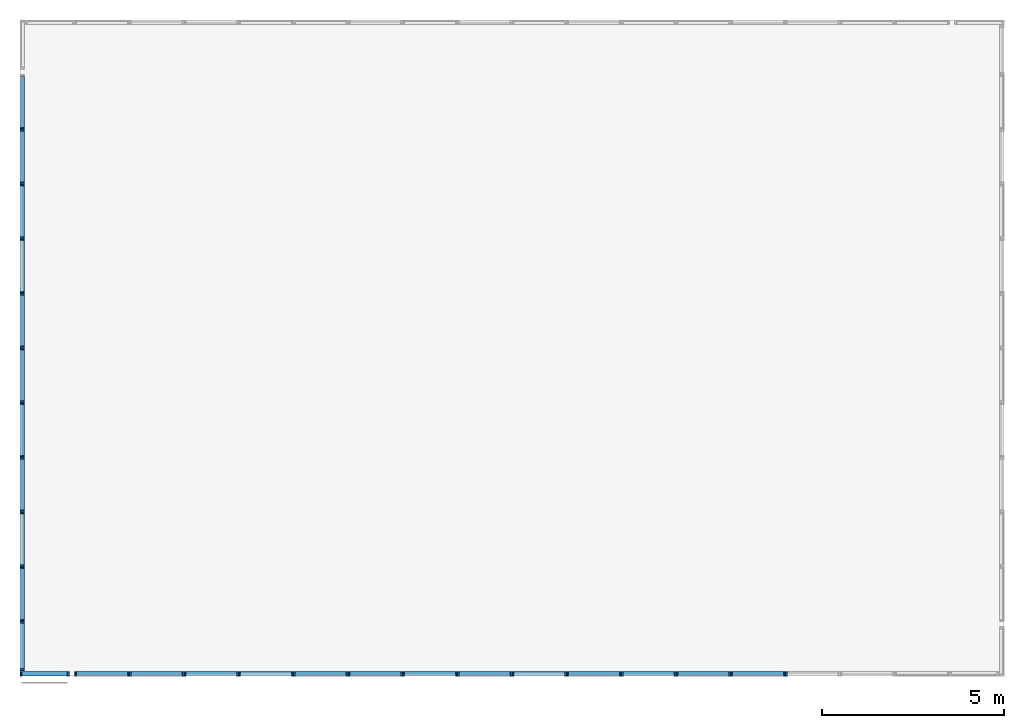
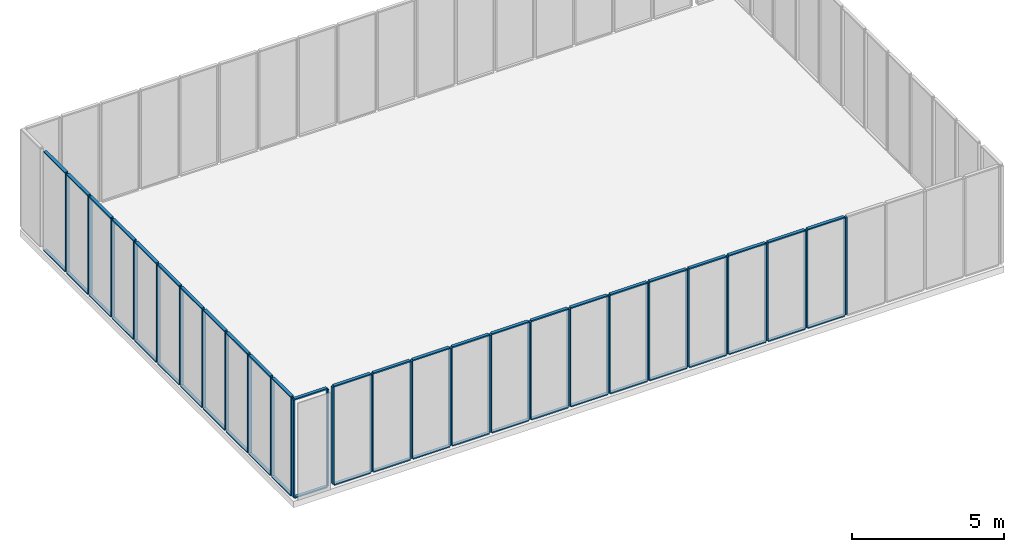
# One storey, part 1 of 4: 100 members.
"""IFC4 building model written with IfcOpenShell, lengths in metres."""

from ifc_helpers import new_model, si_unit, frame, origin_with_axes, place, context, subcontext, project, spatial, indexed_curve, outline, extrude, material, element, save


model = new_model("IFC4")

# Units and contexts
model_context = context("Model", 3, precision=1e-05, world=origin_with_axes())
body_context = subcontext(model_context, "Body", "Model", "MODEL_VIEW")
ifc_project = project(units=[si_unit("AREAUNIT", "SQUARE_METRE"), si_unit("VOLUMEUNIT", "CUBIC_METRE"), si_unit("LENGTHUNIT", "METRE")], contexts=[model_context])

# Site, building, storey
site = spatial("IfcSite", under=ifc_project, Name="Synthetic Site")
building = spatial("IfcBuilding", under=site, Name="Complex Tower")
storey_placement = place(None, origin_with_axes())
storey = spatial("IfcBuildingStorey", under=building, at=storey_placement, Name="L01", Elevation=0.0)

# Members
ifc_material = material(Name="Aluminium")
for number, where, z_axis, x_axis, name in (
    (1, (0.0, 0.0, 0.15), (0.0, 0.0, 1.0), (1.0, 0.0, 0.0), "CT-L01-S-001-ML"),
    (2, (1.3, 0.0, 0.15), (0.0, 0.0, 1.0), (1.0, 0.0, 0.0), "CT-L01-S-001-MR"),
):
    element("IfcMember", number, at=place(storey_placement, frame(where, z_axis=z_axis, x_axis=x_axis)), inside=storey, material=ifc_material, Name=name, PredefinedType="MULLION", context=body_context, shape_type="SweptSolid", body=[
        extrude(outline(indexed_curve([(0.0, 0.0), (0.0, 0.12), (0.05, 0.12), (0.05, 0.0), (0.0, 0.0)], self_intersect=False)), origin_with_axes(), (0.0, 0.0, 1.0), 3.9000000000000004),
    ])
for number, where, z_axis, x_axis, name in (
    (3, (0.05, 0.0, 0.09999999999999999), (0.0, 0.0, 1.0), (1.0, 0.0, 0.0), "CT-L01-S-001-FB"),
    (4, (0.05, 0.0, 4.050000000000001), (0.0, 0.0, 1.0), (1.0, 0.0, 0.0), "CT-L01-S-001-FT"),
):
    element("IfcMember", number, at=place(storey_placement, frame(where, z_axis=z_axis, x_axis=x_axis)), inside=storey, material=ifc_material, Name=name, PredefinedType="MULLION", context=body_context, shape_type="SweptSolid", body=[
        extrude(outline(indexed_curve([(0.0, 0.0), (0.0, 0.12), (1.25, 0.12), (1.25, 0.0), (0.0, 0.0)], self_intersect=False)), origin_with_axes(), (0.0, 0.0, 1.0), 0.05),
    ])
for number, where, z_axis, x_axis, name in (
    (5, (1.5, 0.0, 0.15), (0.0, 0.0, 1.0), (1.0, 0.0, 0.0), "CT-L01-S-002-ML"),
    (6, (2.95, 0.0, 0.15), (0.0, 0.0, 1.0), (1.0, 0.0, 0.0), "CT-L01-S-002-MR"),
):
    element("IfcMember", number, at=place(storey_placement, frame(where, z_axis=z_axis, x_axis=x_axis)), inside=storey, material=ifc_material, Name=name, PredefinedType="MULLION", context=body_context, shape_type="SweptSolid", body=[
        extrude(outline(indexed_curve([(0.0, 0.0), (0.0, 0.12), (0.05, 0.12), (0.05, 0.0), (0.0, 0.0)], self_intersect=False)), origin_with_axes(), (0.0, 0.0, 1.0), 3.9000000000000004),
    ])
for number, where, z_axis, x_axis, name in (
    (7, (1.55, 0.0, 0.09999999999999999), (0.0, 0.0, 1.0), (1.0, 0.0, 0.0), "CT-L01-S-002-FB"),
    (8, (1.55, 0.0, 4.050000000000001), (0.0, 0.0, 1.0), (1.0, 0.0, 0.0), "CT-L01-S-002-FT"),
):
    element("IfcMember", number, at=place(storey_placement, frame(where, z_axis=z_axis, x_axis=x_axis)), inside=storey, material=ifc_material, Name=name, PredefinedType="MULLION", context=body_context, shape_type="SweptSolid", body=[
        extrude(outline(indexed_curve([(0.0, 0.0), (0.0, 0.12), (1.4, 0.12), (1.4, 0.0), (0.0, 0.0)], self_intersect=False)), origin_with_axes(), (0.0, 0.0, 1.0), 0.05),
    ])
for number, where, z_axis, x_axis, name in (
    (9, (3.0, 0.0, 0.15), (0.0, 0.0, 1.0), (1.0, 0.0, 0.0), "CT-L01-S-003-ML"),
    (10, (4.449999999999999, 0.0, 0.15), (0.0, 0.0, 1.0), (1.0, 0.0, 0.0), "CT-L01-S-003-MR"),
):
    element("IfcMember", number, at=place(storey_placement, frame(where, z_axis=z_axis, x_axis=x_axis)), inside=storey, material=ifc_material, Name=name, PredefinedType="MULLION", context=body_context, shape_type="SweptSolid", body=[
        extrude(outline(indexed_curve([(0.0, 0.0), (0.0, 0.12), (0.05, 0.12), (0.05, 0.0), (0.0, 0.0)], self_intersect=False)), origin_with_axes(), (0.0, 0.0, 1.0), 3.9000000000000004),
    ])
for number, where, z_axis, x_axis, name in (
    (11, (3.05, 0.0, 0.09999999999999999), (0.0, 0.0, 1.0), (1.0, 0.0, 0.0), "CT-L01-S-003-FB"),
    (12, (3.05, 0.0, 4.050000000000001), (0.0, 0.0, 1.0), (1.0, 0.0, 0.0), "CT-L01-S-003-FT"),
):
    element("IfcMember", number, at=place(storey_placement, frame(where, z_axis=z_axis, x_axis=x_axis)), inside=storey, material=ifc_material, Name=name, PredefinedType="MULLION", context=body_context, shape_type="SweptSolid", body=[
        extrude(outline(indexed_curve([(0.0, 0.0), (0.0, 0.12), (1.4, 0.12), (1.4, 0.0), (0.0, 0.0)], self_intersect=False)), origin_with_axes(), (0.0, 0.0, 1.0), 0.05),
    ])
for number, where, z_axis, x_axis, name in (
    (13, (4.5, 0.0, 0.15), (0.0, 0.0, 1.0), (1.0, 0.0, 0.0), "CT-L01-S-004-ML"),
    (14, (5.949999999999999, 0.0, 0.15), (0.0, 0.0, 1.0), (1.0, 0.0, 0.0), "CT-L01-S-004-MR"),
):
    element("IfcMember", number, at=place(storey_placement, frame(where, z_axis=z_axis, x_axis=x_axis)), inside=storey, material=ifc_material, Name=name, PredefinedType="MULLION", context=body_context, shape_type="SweptSolid", body=[
        extrude(outline(indexed_curve([(0.0, 0.0), (0.0, 0.12), (0.05, 0.12), (0.05, 0.0), (0.0, 0.0)], self_intersect=False)), origin_with_axes(), (0.0, 0.0, 1.0), 3.9000000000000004),
    ])
for number, where, z_axis, x_axis, name in (
    (15, (4.55, 0.0, 0.09999999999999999), (0.0, 0.0, 1.0), (1.0, 0.0, 0.0), "CT-L01-S-004-FB"),
    (16, (4.55, 0.0, 4.050000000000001), (0.0, 0.0, 1.0), (1.0, 0.0, 0.0), "CT-L01-S-004-FT"),
):
    element("IfcMember", number, at=place(storey_placement, frame(where, z_axis=z_axis, x_axis=x_axis)), inside=storey, material=ifc_material, Name=name, PredefinedType="MULLION", context=body_context, shape_type="SweptSolid", body=[
        extrude(outline(indexed_curve([(0.0, 0.0), (0.0, 0.12), (1.4, 0.12), (1.4, 0.0), (0.0, 0.0)], self_intersect=False)), origin_with_axes(), (0.0, 0.0, 1.0), 0.05),
    ])
for number, where, z_axis, x_axis, name in (
    (17, (6.0, 0.0, 0.15), (0.0, 0.0, 1.0), (1.0, 0.0, 0.0), "CT-L01-S-005-ML"),
    (18, (7.449999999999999, 0.0, 0.15), (0.0, 0.0, 1.0), (1.0, 0.0, 0.0), "CT-L01-S-005-MR"),
):
    element("IfcMember", number, at=place(storey_placement, frame(where, z_axis=z_axis, x_axis=x_axis)), inside=storey, material=ifc_material, Name=name, PredefinedType="MULLION", context=body_context, shape_type="SweptSolid", body=[
        extrude(outline(indexed_curve([(0.0, 0.0), (0.0, 0.12), (0.05, 0.12), (0.05, 0.0), (0.0, 0.0)], self_intersect=False)), origin_with_axes(), (0.0, 0.0, 1.0), 3.9000000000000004),
    ])
for number, where, z_axis, x_axis, name in (
    (19, (6.05, 0.0, 0.09999999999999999), (0.0, 0.0, 1.0), (1.0, 0.0, 0.0), "CT-L01-S-005-FB"),
    (20, (6.05, 0.0, 4.050000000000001), (0.0, 0.0, 1.0), (1.0, 0.0, 0.0), "CT-L01-S-005-FT"),
):
    element("IfcMember", number, at=place(storey_placement, frame(where, z_axis=z_axis, x_axis=x_axis)), inside=storey, material=ifc_material, Name=name, PredefinedType="MULLION", context=body_context, shape_type="SweptSolid", body=[
        extrude(outline(indexed_curve([(0.0, 0.0), (0.0, 0.12), (1.4, 0.12), (1.4, 0.0), (0.0, 0.0)], self_intersect=False)), origin_with_axes(), (0.0, 0.0, 1.0), 0.05),
    ])
for number, where, z_axis, x_axis, name in (
    (21, (7.5, 0.0, 0.15), (0.0, 0.0, 1.0), (1.0, 0.0, 0.0), "CT-L01-S-006-ML"),
    (22, (8.95, 0.0, 0.15), (0.0, 0.0, 1.0), (1.0, 0.0, 0.0), "CT-L01-S-006-MR"),
):
    element("IfcMember", number, at=place(storey_placement, frame(where, z_axis=z_axis, x_axis=x_axis)), inside=storey, material=ifc_material, Name=name, PredefinedType="MULLION", context=body_context, shape_type="SweptSolid", body=[
        extrude(outline(indexed_curve([(0.0, 0.0), (0.0, 0.12), (0.05, 0.12), (0.05, 0.0), (0.0, 0.0)], self_intersect=False)), origin_with_axes(), (0.0, 0.0, 1.0), 3.9000000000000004),
    ])
for number, where, z_axis, x_axis, name in (
    (23, (7.55, 0.0, 0.09999999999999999), (0.0, 0.0, 1.0), (1.0, 0.0, 0.0), "CT-L01-S-006-FB"),
    (24, (7.55, 0.0, 4.050000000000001), (0.0, 0.0, 1.0), (1.0, 0.0, 0.0), "CT-L01-S-006-FT"),
):
    element("IfcMember", number, at=place(storey_placement, frame(where, z_axis=z_axis, x_axis=x_axis)), inside=storey, material=ifc_material, Name=name, PredefinedType="MULLION", context=body_context, shape_type="SweptSolid", body=[
        extrude(outline(indexed_curve([(0.0, 0.0), (0.0, 0.12), (1.4, 0.12), (1.4, 0.0), (0.0, 0.0)], self_intersect=False)), origin_with_axes(), (0.0, 0.0, 1.0), 0.05),
    ])
for number, where, z_axis, x_axis, name in (
    (25, (9.0, 0.0, 0.15), (0.0, 0.0, 1.0), (1.0, 0.0, 0.0), "CT-L01-S-007-ML"),
    (26, (10.450000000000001, 0.0, 0.15), (0.0, 0.0, 1.0), (1.0, 0.0, 0.0), "CT-L01-S-007-MR"),
):
    element("IfcMember", number, at=place(storey_placement, frame(where, z_axis=z_axis, x_axis=x_axis)), inside=storey, material=ifc_material, Name=name, PredefinedType="MULLION", context=body_context, shape_type="SweptSolid", body=[
        extrude(outline(indexed_curve([(0.0, 0.0), (0.0, 0.12), (0.05, 0.12), (0.05, 0.0), (0.0, 0.0)], self_intersect=False)), origin_with_axes(), (0.0, 0.0, 1.0), 3.9000000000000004),
    ])
for number, where, z_axis, x_axis, name in (
    (27, (9.05, 0.0, 0.09999999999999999), (0.0, 0.0, 1.0), (1.0, 0.0, 0.0), "CT-L01-S-007-FB"),
    (28, (9.05, 0.0, 4.050000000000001), (0.0, 0.0, 1.0), (1.0, 0.0, 0.0), "CT-L01-S-007-FT"),
):
    element("IfcMember", number, at=place(storey_placement, frame(where, z_axis=z_axis, x_axis=x_axis)), inside=storey, material=ifc_material, Name=name, PredefinedType="MULLION", context=body_context, shape_type="SweptSolid", body=[
        extrude(outline(indexed_curve([(0.0, 0.0), (0.0, 0.12), (1.4, 0.12), (1.4, 0.0), (0.0, 0.0)], self_intersect=False)), origin_with_axes(), (0.0, 0.0, 1.0), 0.05),
    ])
for number, where, z_axis, x_axis, name in (
    (29, (10.5, 0.0, 0.15), (0.0, 0.0, 1.0), (1.0, 0.0, 0.0), "CT-L01-S-008-ML"),
    (30, (11.950000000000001, 0.0, 0.15), (0.0, 0.0, 1.0), (1.0, 0.0, 0.0), "CT-L01-S-008-MR"),
):
    element("IfcMember", number, at=place(storey_placement, frame(where, z_axis=z_axis, x_axis=x_axis)), inside=storey, material=ifc_material, Name=name, PredefinedType="MULLION", context=body_context, shape_type="SweptSolid", body=[
        extrude(outline(indexed_curve([(0.0, 0.0), (0.0, 0.12), (0.05, 0.12), (0.05, 0.0), (0.0, 0.0)], self_intersect=False)), origin_with_axes(), (0.0, 0.0, 1.0), 3.9000000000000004),
    ])
for number, where, z_axis, x_axis, name in (
    (31, (10.55, 0.0, 0.09999999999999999), (0.0, 0.0, 1.0), (1.0, 0.0, 0.0), "CT-L01-S-008-FB"),
    (32, (10.55, 0.0, 4.050000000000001), (0.0, 0.0, 1.0), (1.0, 0.0, 0.0), "CT-L01-S-008-FT"),
):
    element("IfcMember", number, at=place(storey_placement, frame(where, z_axis=z_axis, x_axis=x_axis)), inside=storey, material=ifc_material, Name=name, PredefinedType="MULLION", context=body_context, shape_type="SweptSolid", body=[
        extrude(outline(indexed_curve([(0.0, 0.0), (0.0, 0.12), (1.4, 0.12), (1.4, 0.0), (0.0, 0.0)], self_intersect=False)), origin_with_axes(), (0.0, 0.0, 1.0), 0.05),
    ])
for number, where, z_axis, x_axis, name in (
    (33, (12.0, 0.0, 0.15), (0.0, 0.0, 1.0), (1.0, 0.0, 0.0), "CT-L01-S-009-ML"),
    (34, (13.450000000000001, 0.0, 0.15), (0.0, 0.0, 1.0), (1.0, 0.0, 0.0), "CT-L01-S-009-MR"),
):
    element("IfcMember", number, at=place(storey_placement, frame(where, z_axis=z_axis, x_axis=x_axis)), inside=storey, material=ifc_material, Name=name, PredefinedType="MULLION", context=body_context, shape_type="SweptSolid", body=[
        extrude(outline(indexed_curve([(0.0, 0.0), (0.0, 0.12), (0.05, 0.12), (0.05, 0.0), (0.0, 0.0)], self_intersect=False)), origin_with_axes(), (0.0, 0.0, 1.0), 3.9000000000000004),
    ])
for number, where, z_axis, x_axis, name in (
    (35, (12.05, 0.0, 0.09999999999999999), (0.0, 0.0, 1.0), (1.0, 0.0, 0.0), "CT-L01-S-009-FB"),
    (36, (12.05, 0.0, 4.050000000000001), (0.0, 0.0, 1.0), (1.0, 0.0, 0.0), "CT-L01-S-009-FT"),
):
    element("IfcMember", number, at=place(storey_placement, frame(where, z_axis=z_axis, x_axis=x_axis)), inside=storey, material=ifc_material, Name=name, PredefinedType="MULLION", context=body_context, shape_type="SweptSolid", body=[
        extrude(outline(indexed_curve([(0.0, 0.0), (0.0, 0.12), (1.4, 0.12), (1.4, 0.0), (0.0, 0.0)], self_intersect=False)), origin_with_axes(), (0.0, 0.0, 1.0), 0.05),
    ])
for number, where, z_axis, x_axis, name in (
    (37, (13.5, 0.0, 0.15), (0.0, 0.0, 1.0), (1.0, 0.0, 0.0), "CT-L01-S-010-ML"),
    (38, (14.950000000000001, 0.0, 0.15), (0.0, 0.0, 1.0), (1.0, 0.0, 0.0), "CT-L01-S-010-MR"),
):
    element("IfcMember", number, at=place(storey_placement, frame(where, z_axis=z_axis, x_axis=x_axis)), inside=storey, material=ifc_material, Name=name, PredefinedType="MULLION", context=body_context, shape_type="SweptSolid", body=[
        extrude(outline(indexed_curve([(0.0, 0.0), (0.0, 0.12), (0.05, 0.12), (0.05, 0.0), (0.0, 0.0)], self_intersect=False)), origin_with_axes(), (0.0, 0.0, 1.0), 3.9000000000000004),
    ])
for number, where, z_axis, x_axis, name in (
    (39, (13.55, 0.0, 0.09999999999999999), (0.0, 0.0, 1.0), (1.0, 0.0, 0.0), "CT-L01-S-010-FB"),
    (40, (13.55, 0.0, 4.050000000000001), (0.0, 0.0, 1.0), (1.0, 0.0, 0.0), "CT-L01-S-010-FT"),
):
    element("IfcMember", number, at=place(storey_placement, frame(where, z_axis=z_axis, x_axis=x_axis)), inside=storey, material=ifc_material, Name=name, PredefinedType="MULLION", context=body_context, shape_type="SweptSolid", body=[
        extrude(outline(indexed_curve([(0.0, 0.0), (0.0, 0.12), (1.4, 0.12), (1.4, 0.0), (0.0, 0.0)], self_intersect=False)), origin_with_axes(), (0.0, 0.0, 1.0), 0.05),
    ])
for number, where, z_axis, x_axis, name in (
    (41, (15.0, 0.0, 0.15), (0.0, 0.0, 1.0), (1.0, 0.0, 0.0), "CT-L01-S-011-ML"),
    (42, (16.45, 0.0, 0.15), (0.0, 0.0, 1.0), (1.0, 0.0, 0.0), "CT-L01-S-011-MR"),
):
    element("IfcMember", number, at=place(storey_placement, frame(where, z_axis=z_axis, x_axis=x_axis)), inside=storey, material=ifc_material, Name=name, PredefinedType="MULLION", context=body_context, shape_type="SweptSolid", body=[
        extrude(outline(indexed_curve([(0.0, 0.0), (0.0, 0.12), (0.05, 0.12), (0.05, 0.0), (0.0, 0.0)], self_intersect=False)), origin_with_axes(), (0.0, 0.0, 1.0), 3.9000000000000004),
    ])
for number, where, z_axis, x_axis, name in (
    (43, (15.05, 0.0, 0.09999999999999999), (0.0, 0.0, 1.0), (1.0, 0.0, 0.0), "CT-L01-S-011-FB"),
    (44, (15.05, 0.0, 4.050000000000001), (0.0, 0.0, 1.0), (1.0, 0.0, 0.0), "CT-L01-S-011-FT"),
):
    element("IfcMember", number, at=place(storey_placement, frame(where, z_axis=z_axis, x_axis=x_axis)), inside=storey, material=ifc_material, Name=name, PredefinedType="MULLION", context=body_context, shape_type="SweptSolid", body=[
        extrude(outline(indexed_curve([(0.0, 0.0), (0.0, 0.12), (1.4, 0.12), (1.4, 0.0), (0.0, 0.0)], self_intersect=False)), origin_with_axes(), (0.0, 0.0, 1.0), 0.05),
    ])
for number, where, z_axis, x_axis, name in (
    (45, (16.5, 0.0, 0.15), (0.0, 0.0, 1.0), (1.0, 0.0, 0.0), "CT-L01-S-012-ML"),
    (46, (17.95, 0.0, 0.15), (0.0, 0.0, 1.0), (1.0, 0.0, 0.0), "CT-L01-S-012-MR"),
):
    element("IfcMember", number, at=place(storey_placement, frame(where, z_axis=z_axis, x_axis=x_axis)), inside=storey, material=ifc_material, Name=name, PredefinedType="MULLION", context=body_context, shape_type="SweptSolid", body=[
        extrude(outline(indexed_curve([(0.0, 0.0), (0.0, 0.12), (0.05, 0.12), (0.05, 0.0), (0.0, 0.0)], self_intersect=False)), origin_with_axes(), (0.0, 0.0, 1.0), 3.9000000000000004),
    ])
for number, where, z_axis, x_axis, name in (
    (47, (16.55, 0.0, 0.09999999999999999), (0.0, 0.0, 1.0), (1.0, 0.0, 0.0), "CT-L01-S-012-FB"),
    (48, (16.55, 0.0, 4.050000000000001), (0.0, 0.0, 1.0), (1.0, 0.0, 0.0), "CT-L01-S-012-FT"),
):
    element("IfcMember", number, at=place(storey_placement, frame(where, z_axis=z_axis, x_axis=x_axis)), inside=storey, material=ifc_material, Name=name, PredefinedType="MULLION", context=body_context, shape_type="SweptSolid", body=[
        extrude(outline(indexed_curve([(0.0, 0.0), (0.0, 0.12), (1.4, 0.12), (1.4, 0.0), (0.0, 0.0)], self_intersect=False)), origin_with_axes(), (0.0, 0.0, 1.0), 0.05),
    ])
for number, where, z_axis, x_axis, name in (
    (49, (18.0, 0.0, 0.15), (0.0, 0.0, 1.0), (1.0, 0.0, 0.0), "CT-L01-S-013-ML"),
    (50, (19.45, 0.0, 0.15), (0.0, 0.0, 1.0), (1.0, 0.0, 0.0), "CT-L01-S-013-MR"),
):
    element("IfcMember", number, at=place(storey_placement, frame(where, z_axis=z_axis, x_axis=x_axis)), inside=storey, material=ifc_material, Name=name, PredefinedType="MULLION", context=body_context, shape_type="SweptSolid", body=[
        extrude(outline(indexed_curve([(0.0, 0.0), (0.0, 0.12), (0.05, 0.12), (0.05, 0.0), (0.0, 0.0)], self_intersect=False)), origin_with_axes(), (0.0, 0.0, 1.0), 3.9000000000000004),
    ])
for number, where, z_axis, x_axis, name in (
    (51, (18.05, 0.0, 0.09999999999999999), (0.0, 0.0, 1.0), (1.0, 0.0, 0.0), "CT-L01-S-013-FB"),
    (52, (18.05, 0.0, 4.050000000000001), (0.0, 0.0, 1.0), (1.0, 0.0, 0.0), "CT-L01-S-013-FT"),
):
    element("IfcMember", number, at=place(storey_placement, frame(where, z_axis=z_axis, x_axis=x_axis)), inside=storey, material=ifc_material, Name=name, PredefinedType="MULLION", context=body_context, shape_type="SweptSolid", body=[
        extrude(outline(indexed_curve([(0.0, 0.0), (0.0, 0.12), (1.4, 0.12), (1.4, 0.0), (0.0, 0.0)], self_intersect=False)), origin_with_axes(), (0.0, 0.0, 1.0), 0.05),
    ])
for number, where, z_axis, x_axis, name in (
    (53, (19.5, 0.0, 0.15), (0.0, 0.0, 1.0), (1.0, 0.0, 0.0), "CT-L01-S-014-ML"),
    (54, (20.95, 0.0, 0.15), (0.0, 0.0, 1.0), (1.0, 0.0, 0.0), "CT-L01-S-014-MR"),
):
    element("IfcMember", number, at=place(storey_placement, frame(where, z_axis=z_axis, x_axis=x_axis)), inside=storey, material=ifc_material, Name=name, PredefinedType="MULLION", context=body_context, shape_type="SweptSolid", body=[
        extrude(outline(indexed_curve([(0.0, 0.0), (0.0, 0.12), (0.05, 0.12), (0.05, 0.0), (0.0, 0.0)], self_intersect=False)), origin_with_axes(), (0.0, 0.0, 1.0), 3.9000000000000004),
    ])
for number, where, z_axis, x_axis, name in (
    (55, (19.55, 0.0, 0.09999999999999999), (0.0, 0.0, 1.0), (1.0, 0.0, 0.0), "CT-L01-S-014-FB"),
    (56, (19.55, 0.0, 4.050000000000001), (0.0, 0.0, 1.0), (1.0, 0.0, 0.0), "CT-L01-S-014-FT"),
):
    element("IfcMember", number, at=place(storey_placement, frame(where, z_axis=z_axis, x_axis=x_axis)), inside=storey, material=ifc_material, Name=name, PredefinedType="MULLION", context=body_context, shape_type="SweptSolid", body=[
        extrude(outline(indexed_curve([(0.0, 0.0), (0.0, 0.12), (1.4, 0.12), (1.4, 0.0), (0.0, 0.0)], self_intersect=False)), origin_with_axes(), (0.0, 0.0, 1.0), 0.05),
    ])
for number, where, z_axis, x_axis, name in (
    (57, (21.0, 0.0, 0.15), (0.0, 0.0, 1.0), (1.0, 0.0, 0.0), "CT-L01-S-015-ML"),
    (58, (-5.419062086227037e-16, 15.049999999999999, 0.15), (0.0, 0.0, 1.0), (-1.8369701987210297e-16, -1.0, 0.0), "CT-L01-W-002-MR"),
):
    element("IfcMember", number, at=place(storey_placement, frame(where, z_axis=z_axis, x_axis=x_axis)), inside=storey, material=ifc_material, Name=name, PredefinedType="MULLION", context=body_context, shape_type="SweptSolid", body=[
        extrude(outline(indexed_curve([(0.0, 0.0), (0.0, 0.12), (0.05, 0.12), (0.05, 0.0), (0.0, 0.0)], self_intersect=False)), origin_with_axes(), (0.0, 0.0, 1.0), 3.9000000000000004),
    ])
for number, where, z_axis, x_axis, name in (
    (59, (-2.847303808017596e-16, 16.45, 0.09999999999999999), (0.0, 0.0, 1.0), (-1.8369701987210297e-16, -1.0, 0.0), "CT-L01-W-002-FB"),
    (60, (-2.847303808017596e-16, 16.45, 4.050000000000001), (0.0, 0.0, 1.0), (-1.8369701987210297e-16, -1.0, 0.0), "CT-L01-W-002-FT"),
):
    element("IfcMember", number, at=place(storey_placement, frame(where, z_axis=z_axis, x_axis=x_axis)), inside=storey, material=ifc_material, Name=name, PredefinedType="MULLION", context=body_context, shape_type="SweptSolid", body=[
        extrude(outline(indexed_curve([(0.0, 0.0), (0.0, 0.12), (1.4, 0.12), (1.4, 0.0), (0.0, 0.0)], self_intersect=False)), origin_with_axes(), (0.0, 0.0, 1.0), 0.05),
    ])
for number, where, z_axis, x_axis, name in (
    (61, (-5.510910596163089e-16, 15.0, 0.15), (0.0, 0.0, 1.0), (-1.8369701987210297e-16, -1.0, 0.0), "CT-L01-W-003-ML"),
    (62, (-8.174517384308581e-16, 13.549999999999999, 0.15), (0.0, 0.0, 1.0), (-1.8369701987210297e-16, -1.0, 0.0), "CT-L01-W-003-MR"),
):
    element("IfcMember", number, at=place(storey_placement, frame(where, z_axis=z_axis, x_axis=x_axis)), inside=storey, material=ifc_material, Name=name, PredefinedType="MULLION", context=body_context, shape_type="SweptSolid", body=[
        extrude(outline(indexed_curve([(0.0, 0.0), (0.0, 0.12), (0.05, 0.12), (0.05, 0.0), (0.0, 0.0)], self_intersect=False)), origin_with_axes(), (0.0, 0.0, 1.0), 3.9000000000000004),
    ])
for number, where, z_axis, x_axis, name in (
    (63, (-5.60275910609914e-16, 14.95, 0.09999999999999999), (0.0, 0.0, 1.0), (-1.8369701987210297e-16, -1.0, 0.0), "CT-L01-W-003-FB"),
    (64, (-5.60275910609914e-16, 14.95, 4.050000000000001), (0.0, 0.0, 1.0), (-1.8369701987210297e-16, -1.0, 0.0), "CT-L01-W-003-FT"),
):
    element("IfcMember", number, at=place(storey_placement, frame(where, z_axis=z_axis, x_axis=x_axis)), inside=storey, material=ifc_material, Name=name, PredefinedType="MULLION", context=body_context, shape_type="SweptSolid", body=[
        extrude(outline(indexed_curve([(0.0, 0.0), (0.0, 0.12), (1.4, 0.12), (1.4, 0.0), (0.0, 0.0)], self_intersect=False)), origin_with_axes(), (0.0, 0.0, 1.0), 0.05),
    ])
for number, where, z_axis, x_axis, name in (
    (65, (-8.266365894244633e-16, 13.5, 0.15), (0.0, 0.0, 1.0), (-1.8369701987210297e-16, -1.0, 0.0), "CT-L01-W-004-ML"),
    (66, (-1.0929972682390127e-15, 12.049999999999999, 0.15), (0.0, 0.0, 1.0), (-1.8369701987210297e-16, -1.0, 0.0), "CT-L01-W-004-MR"),
):
    element("IfcMember", number, at=place(storey_placement, frame(where, z_axis=z_axis, x_axis=x_axis)), inside=storey, material=ifc_material, Name=name, PredefinedType="MULLION", context=body_context, shape_type="SweptSolid", body=[
        extrude(outline(indexed_curve([(0.0, 0.0), (0.0, 0.12), (0.05, 0.12), (0.05, 0.0), (0.0, 0.0)], self_intersect=False)), origin_with_axes(), (0.0, 0.0, 1.0), 3.9000000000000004),
    ])
for number, where, z_axis, x_axis, name in (
    (67, (-8.358214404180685e-16, 13.45, 0.09999999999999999), (0.0, 0.0, 1.0), (-1.8369701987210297e-16, -1.0, 0.0), "CT-L01-W-004-FB"),
    (68, (-8.358214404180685e-16, 13.45, 4.050000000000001), (0.0, 0.0, 1.0), (-1.8369701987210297e-16, -1.0, 0.0), "CT-L01-W-004-FT"),
):
    element("IfcMember", number, at=place(storey_placement, frame(where, z_axis=z_axis, x_axis=x_axis)), inside=storey, material=ifc_material, Name=name, PredefinedType="MULLION", context=body_context, shape_type="SweptSolid", body=[
        extrude(outline(indexed_curve([(0.0, 0.0), (0.0, 0.12), (1.4, 0.12), (1.4, 0.0), (0.0, 0.0)], self_intersect=False)), origin_with_axes(), (0.0, 0.0, 1.0), 0.05),
    ])
for number, where, z_axis, x_axis, name in (
    (69, (-1.1021821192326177e-15, 12.0, 0.15), (0.0, 0.0, 1.0), (-1.8369701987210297e-16, -1.0, 0.0), "CT-L01-W-005-ML"),
    (70, (-1.3685427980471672e-15, 10.549999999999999, 0.15), (0.0, 0.0, 1.0), (-1.8369701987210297e-16, -1.0, 0.0), "CT-L01-W-005-MR"),
):
    element("IfcMember", number, at=place(storey_placement, frame(where, z_axis=z_axis, x_axis=x_axis)), inside=storey, material=ifc_material, Name=name, PredefinedType="MULLION", context=body_context, shape_type="SweptSolid", body=[
        extrude(outline(indexed_curve([(0.0, 0.0), (0.0, 0.12), (0.05, 0.12), (0.05, 0.0), (0.0, 0.0)], self_intersect=False)), origin_with_axes(), (0.0, 0.0, 1.0), 3.9000000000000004),
    ])
for number, where, z_axis, x_axis, name in (
    (71, (-1.111366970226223e-15, 11.95, 0.09999999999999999), (0.0, 0.0, 1.0), (-1.8369701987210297e-16, -1.0, 0.0), "CT-L01-W-005-FB"),
    (72, (-1.111366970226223e-15, 11.95, 4.050000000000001), (0.0, 0.0, 1.0), (-1.8369701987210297e-16, -1.0, 0.0), "CT-L01-W-005-FT"),
):
    element("IfcMember", number, at=place(storey_placement, frame(where, z_axis=z_axis, x_axis=x_axis)), inside=storey, material=ifc_material, Name=name, PredefinedType="MULLION", context=body_context, shape_type="SweptSolid", body=[
        extrude(outline(indexed_curve([(0.0, 0.0), (0.0, 0.12), (1.4, 0.12), (1.4, 0.0), (0.0, 0.0)], self_intersect=False)), origin_with_axes(), (0.0, 0.0, 1.0), 0.05),
    ])
for number, where, z_axis, x_axis, name in (
    (73, (-1.3777276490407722e-15, 10.5, 0.15), (0.0, 0.0, 1.0), (-1.8369701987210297e-16, -1.0, 0.0), "CT-L01-W-006-ML"),
    (74, (-1.6440883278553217e-15, 9.049999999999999, 0.15), (0.0, 0.0, 1.0), (-1.8369701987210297e-16, -1.0, 0.0), "CT-L01-W-006-MR"),
):
    element("IfcMember", number, at=place(storey_placement, frame(where, z_axis=z_axis, x_axis=x_axis)), inside=storey, material=ifc_material, Name=name, PredefinedType="MULLION", context=body_context, shape_type="SweptSolid", body=[
        extrude(outline(indexed_curve([(0.0, 0.0), (0.0, 0.12), (0.05, 0.12), (0.05, 0.0), (0.0, 0.0)], self_intersect=False)), origin_with_axes(), (0.0, 0.0, 1.0), 3.9000000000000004),
    ])
for number, where, z_axis, x_axis, name in (
    (75, (-1.3869125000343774e-15, 10.45, 0.09999999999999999), (0.0, 0.0, 1.0), (-1.8369701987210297e-16, -1.0, 0.0), "CT-L01-W-006-FB"),
    (76, (-1.3869125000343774e-15, 10.45, 4.050000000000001), (0.0, 0.0, 1.0), (-1.8369701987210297e-16, -1.0, 0.0), "CT-L01-W-006-FT"),
):
    element("IfcMember", number, at=place(storey_placement, frame(where, z_axis=z_axis, x_axis=x_axis)), inside=storey, material=ifc_material, Name=name, PredefinedType="MULLION", context=body_context, shape_type="SweptSolid", body=[
        extrude(outline(indexed_curve([(0.0, 0.0), (0.0, 0.12), (1.4, 0.12), (1.4, 0.0), (0.0, 0.0)], self_intersect=False)), origin_with_axes(), (0.0, 0.0, 1.0), 0.05),
    ])
for number, where, z_axis, x_axis, name in (
    (77, (-1.6532731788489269e-15, 9.0, 0.15), (0.0, 0.0, 1.0), (-1.8369701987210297e-16, -1.0, 0.0), "CT-L01-W-007-ML"),
    (78, (-1.919633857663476e-15, 7.549999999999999, 0.15), (0.0, 0.0, 1.0), (-1.8369701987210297e-16, -1.0, 0.0), "CT-L01-W-007-MR"),
):
    element("IfcMember", number, at=place(storey_placement, frame(where, z_axis=z_axis, x_axis=x_axis)), inside=storey, material=ifc_material, Name=name, PredefinedType="MULLION", context=body_context, shape_type="SweptSolid", body=[
        extrude(outline(indexed_curve([(0.0, 0.0), (0.0, 0.12), (0.05, 0.12), (0.05, 0.0), (0.0, 0.0)], self_intersect=False)), origin_with_axes(), (0.0, 0.0, 1.0), 3.9000000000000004),
    ])
for number, where, z_axis, x_axis, name in (
    (79, (-1.662458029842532e-15, 8.95, 0.09999999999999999), (0.0, 0.0, 1.0), (-1.8369701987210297e-16, -1.0, 0.0), "CT-L01-W-007-FB"),
    (80, (-1.662458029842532e-15, 8.95, 4.050000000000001), (0.0, 0.0, 1.0), (-1.8369701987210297e-16, -1.0, 0.0), "CT-L01-W-007-FT"),
):
    element("IfcMember", number, at=place(storey_placement, frame(where, z_axis=z_axis, x_axis=x_axis)), inside=storey, material=ifc_material, Name=name, PredefinedType="MULLION", context=body_context, shape_type="SweptSolid", body=[
        extrude(outline(indexed_curve([(0.0, 0.0), (0.0, 0.12), (1.4, 0.12), (1.4, 0.0), (0.0, 0.0)], self_intersect=False)), origin_with_axes(), (0.0, 0.0, 1.0), 0.05),
    ])
for number, where, z_axis, x_axis, name in (
    (81, (-1.9288187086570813e-15, 7.499999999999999, 0.15), (0.0, 0.0, 1.0), (-1.8369701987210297e-16, -1.0, 0.0), "CT-L01-W-008-ML"),
    (82, (-2.1951793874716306e-15, 6.049999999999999, 0.15), (0.0, 0.0, 1.0), (-1.8369701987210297e-16, -1.0, 0.0), "CT-L01-W-008-MR"),
):
    element("IfcMember", number, at=place(storey_placement, frame(where, z_axis=z_axis, x_axis=x_axis)), inside=storey, material=ifc_material, Name=name, PredefinedType="MULLION", context=body_context, shape_type="SweptSolid", body=[
        extrude(outline(indexed_curve([(0.0, 0.0), (0.0, 0.12), (0.05, 0.12), (0.05, 0.0), (0.0, 0.0)], self_intersect=False)), origin_with_axes(), (0.0, 0.0, 1.0), 3.9000000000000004),
    ])
for number, where, z_axis, x_axis, name in (
    (83, (-1.9380035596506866e-15, 7.449999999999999, 0.09999999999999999), (0.0, 0.0, 1.0), (-1.8369701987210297e-16, -1.0, 0.0), "CT-L01-W-008-FB"),
    (84, (-1.9380035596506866e-15, 7.449999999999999, 4.050000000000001), (0.0, 0.0, 1.0), (-1.8369701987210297e-16, -1.0, 0.0), "CT-L01-W-008-FT"),
):
    element("IfcMember", number, at=place(storey_placement, frame(where, z_axis=z_axis, x_axis=x_axis)), inside=storey, material=ifc_material, Name=name, PredefinedType="MULLION", context=body_context, shape_type="SweptSolid", body=[
        extrude(outline(indexed_curve([(0.0, 0.0), (0.0, 0.12), (1.4, 0.12), (1.4, 0.0), (0.0, 0.0)], self_intersect=False)), origin_with_axes(), (0.0, 0.0, 1.0), 0.05),
    ])
for number, where, z_axis, x_axis, name in (
    (85, (-2.204364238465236e-15, 5.999999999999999, 0.15), (0.0, 0.0, 1.0), (-1.8369701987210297e-16, -1.0, 0.0), "CT-L01-W-009-ML"),
    (86, (-2.470724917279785e-15, 4.549999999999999, 0.15), (0.0, 0.0, 1.0), (-1.8369701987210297e-16, -1.0, 0.0), "CT-L01-W-009-MR"),
):
    element("IfcMember", number, at=place(storey_placement, frame(where, z_axis=z_axis, x_axis=x_axis)), inside=storey, material=ifc_material, Name=name, PredefinedType="MULLION", context=body_context, shape_type="SweptSolid", body=[
        extrude(outline(indexed_curve([(0.0, 0.0), (0.0, 0.12), (0.05, 0.12), (0.05, 0.0), (0.0, 0.0)], self_intersect=False)), origin_with_axes(), (0.0, 0.0, 1.0), 3.9000000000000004),
    ])
for number, where, z_axis, x_axis, name in (
    (87, (-2.213549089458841e-15, 5.949999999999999, 0.09999999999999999), (0.0, 0.0, 1.0), (-1.8369701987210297e-16, -1.0, 0.0), "CT-L01-W-009-FB"),
    (88, (-2.213549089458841e-15, 5.949999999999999, 4.050000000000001), (0.0, 0.0, 1.0), (-1.8369701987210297e-16, -1.0, 0.0), "CT-L01-W-009-FT"),
):
    element("IfcMember", number, at=place(storey_placement, frame(where, z_axis=z_axis, x_axis=x_axis)), inside=storey, material=ifc_material, Name=name, PredefinedType="MULLION", context=body_context, shape_type="SweptSolid", body=[
        extrude(outline(indexed_curve([(0.0, 0.0), (0.0, 0.12), (1.4, 0.12), (1.4, 0.0), (0.0, 0.0)], self_intersect=False)), origin_with_axes(), (0.0, 0.0, 1.0), 0.05),
    ])
for number, where, z_axis, x_axis, name in (
    (89, (-2.4799097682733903e-15, 4.499999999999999, 0.15), (0.0, 0.0, 1.0), (-1.8369701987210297e-16, -1.0, 0.0), "CT-L01-W-010-ML"),
    (90, (-2.7462704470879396e-15, 3.0499999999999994, 0.15), (0.0, 0.0, 1.0), (-1.8369701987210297e-16, -1.0, 0.0), "CT-L01-W-010-MR"),
):
    element("IfcMember", number, at=place(storey_placement, frame(where, z_axis=z_axis, x_axis=x_axis)), inside=storey, material=ifc_material, Name=name, PredefinedType="MULLION", context=body_context, shape_type="SweptSolid", body=[
        extrude(outline(indexed_curve([(0.0, 0.0), (0.0, 0.12), (0.05, 0.12), (0.05, 0.0), (0.0, 0.0)], self_intersect=False)), origin_with_axes(), (0.0, 0.0, 1.0), 3.9000000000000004),
    ])
for number, where, z_axis, x_axis, name in (
    (91, (-2.4890946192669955e-15, 4.449999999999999, 0.09999999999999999), (0.0, 0.0, 1.0), (-1.8369701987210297e-16, -1.0, 0.0), "CT-L01-W-010-FB"),
    (92, (-2.4890946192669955e-15, 4.449999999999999, 4.050000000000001), (0.0, 0.0, 1.0), (-1.8369701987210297e-16, -1.0, 0.0), "CT-L01-W-010-FT"),
):
    element("IfcMember", number, at=place(storey_placement, frame(where, z_axis=z_axis, x_axis=x_axis)), inside=storey, material=ifc_material, Name=name, PredefinedType="MULLION", context=body_context, shape_type="SweptSolid", body=[
        extrude(outline(indexed_curve([(0.0, 0.0), (0.0, 0.12), (1.4, 0.12), (1.4, 0.0), (0.0, 0.0)], self_intersect=False)), origin_with_axes(), (0.0, 0.0, 1.0), 0.05),
    ])
for number, where, z_axis, x_axis, name in (
    (93, (-2.7554552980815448e-15, 2.999999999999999, 0.15), (0.0, 0.0, 1.0), (-1.8369701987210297e-16, -1.0, 0.0), "CT-L01-W-011-ML"),
    (94, (-3.021815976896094e-15, 1.5499999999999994, 0.15), (0.0, 0.0, 1.0), (-1.8369701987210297e-16, -1.0, 0.0), "CT-L01-W-011-MR"),
):
    element("IfcMember", number, at=place(storey_placement, frame(where, z_axis=z_axis, x_axis=x_axis)), inside=storey, material=ifc_material, Name=name, PredefinedType="MULLION", context=body_context, shape_type="SweptSolid", body=[
        extrude(outline(indexed_curve([(0.0, 0.0), (0.0, 0.12), (0.05, 0.12), (0.05, 0.0), (0.0, 0.0)], self_intersect=False)), origin_with_axes(), (0.0, 0.0, 1.0), 3.9000000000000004),
    ])
for number, where, z_axis, x_axis, name in (
    (95, (-2.76464014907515e-15, 2.9499999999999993, 0.09999999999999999), (0.0, 0.0, 1.0), (-1.8369701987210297e-16, -1.0, 0.0), "CT-L01-W-011-FB"),
    (96, (-2.76464014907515e-15, 2.9499999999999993, 4.050000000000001), (0.0, 0.0, 1.0), (-1.8369701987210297e-16, -1.0, 0.0), "CT-L01-W-011-FT"),
):
    element("IfcMember", number, at=place(storey_placement, frame(where, z_axis=z_axis, x_axis=x_axis)), inside=storey, material=ifc_material, Name=name, PredefinedType="MULLION", context=body_context, shape_type="SweptSolid", body=[
        extrude(outline(indexed_curve([(0.0, 0.0), (0.0, 0.12), (1.4, 0.12), (1.4, 0.0), (0.0, 0.0)], self_intersect=False)), origin_with_axes(), (0.0, 0.0, 1.0), 0.05),
    ])
for number, where, z_axis, x_axis, name in (
    (97, (-3.031000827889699e-15, 1.4999999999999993, 0.15), (0.0, 0.0, 1.0), (-1.8369701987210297e-16, -1.0, 0.0), "CT-L01-W-012-ML"),
    (98, (-3.269806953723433e-15, 0.1999999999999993, 0.15), (0.0, 0.0, 1.0), (-1.8369701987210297e-16, -1.0, 0.0), "CT-L01-W-012-MR"),
):
    element("IfcMember", number, at=place(storey_placement, frame(where, z_axis=z_axis, x_axis=x_axis)), inside=storey, material=ifc_material, Name=name, PredefinedType="MULLION", context=body_context, shape_type="SweptSolid", body=[
        extrude(outline(indexed_curve([(0.0, 0.0), (0.0, 0.12), (0.05, 0.12), (0.05, 0.0), (0.0, 0.0)], self_intersect=False)), origin_with_axes(), (0.0, 0.0, 1.0), 3.9000000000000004),
    ])
for number, where, z_axis, x_axis, name in (
    (99, (-3.040185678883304e-15, 1.4499999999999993, 0.09999999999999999), (0.0, 0.0, 1.0), (-1.8369701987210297e-16, -1.0, 0.0), "CT-L01-W-012-FB"),
    (100, (-3.040185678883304e-15, 1.4499999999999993, 4.050000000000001), (0.0, 0.0, 1.0), (-1.8369701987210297e-16, -1.0, 0.0), "CT-L01-W-012-FT"),
):
    element("IfcMember", number, at=place(storey_placement, frame(where, z_axis=z_axis, x_axis=x_axis)), inside=storey, material=ifc_material, Name=name, PredefinedType="MULLION", context=body_context, shape_type="SweptSolid", body=[
        extrude(outline(indexed_curve([(0.0, 0.0), (0.0, 0.12), (1.25, 0.12), (1.25, 0.0), (0.0, 0.0)], self_intersect=False)), origin_with_axes(), (0.0, 0.0, 1.0), 0.05),
    ])

save(model, "model.ifc")
